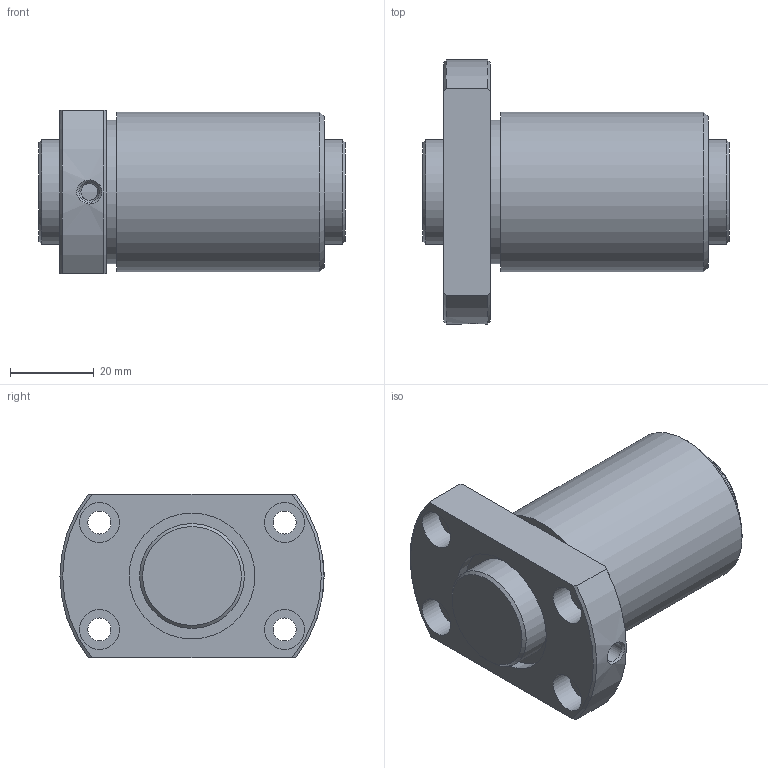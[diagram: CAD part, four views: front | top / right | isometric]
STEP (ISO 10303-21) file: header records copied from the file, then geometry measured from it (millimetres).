
FILE_DESCRIPTION(/* description */ ('STEP AP203'),/* implementation_level */ '2;1');
FILE_NAME(/* name */ 'DIK2504-6RRG0+73LC0_000',/* time_stamp */ '2025-01-13T09:47:09+01:00',/* author */ ('License CC BY-ND 4.0'),/* organization */ ('CADENAS'),/* preprocessor_version */ 'ST-DEVELOPER v19.3',/* originating_system */ 'PARTsolutions',/* authorisation */ ' ');
FILE_SCHEMA (('CONFIG_CONTROL_DESIGN'));
Length unit declared in the file: millimetre
Products named in the file (3): DIK2504-6RRG0+73LC0_000; DIK 2504-6RR07300 Shaft; DIK 2504-6RR Nut
Assembly tree (2 placements, depth 2):
  DIK2504-6RRG0+73LC0_000
    DIK 2504-6RR07300 Shaft
    DIK 2504-6RR Nut
Bounding box: 73 x 63 x 39 mm (x, y, z)
Volume: 84833 mm3; surface area: 24846.4 mm2
Topology: 2 solids, 2 shells, 41 faces, 83 edges, 54 vertices
Faces by surface type: cylinder 18, plane 14, cone 9
Full cylindrical faces by diameter (mm): 4 x1, 4.917 x1, 5.5 x4, 9.5 x4, 25 x2, 30 x2, 34.2 x1, 38 x1
Entity records: 1087 total; most frequent: CARTESIAN_POINT 200, DIRECTION 180, ORIENTED_EDGE 120, AXIS2_PLACEMENT_3D 86, EDGE_LOOP 82, FACE_BOUND 82, EDGE_CURVE 60, VERTEX_POINT 52
